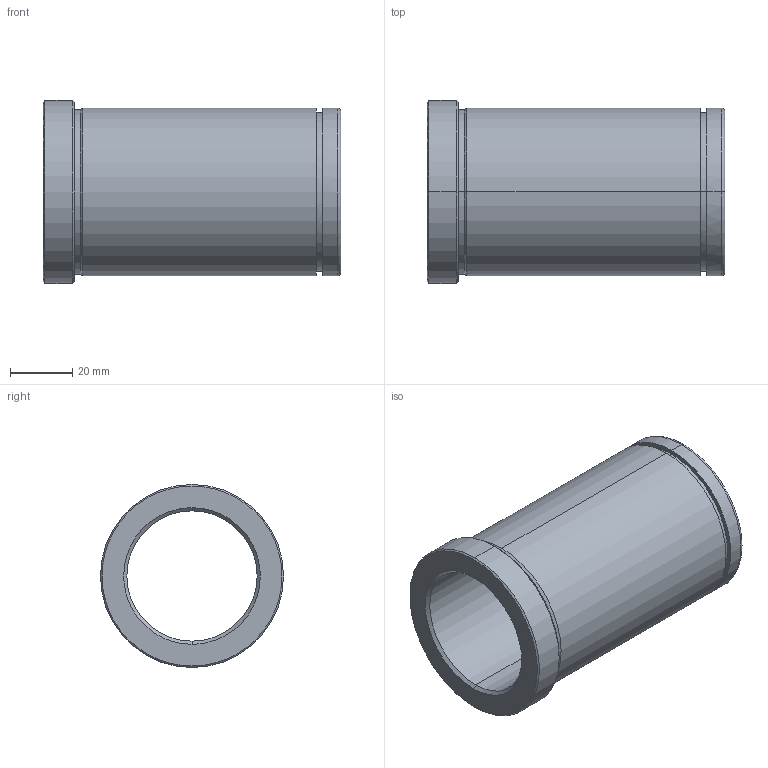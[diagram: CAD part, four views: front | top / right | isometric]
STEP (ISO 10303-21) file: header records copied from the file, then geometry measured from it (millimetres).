
FILE_DESCRIPTION(('CATIA V5 STEP Exchange'),'2;1');
FILE_NAME('C:\Users\Utente\Desktop\IO LAVORO\3D X SITO CF\X SITO\PLASTICA\553\553-42X96.stp','2021-06-08T17:50:08+00:00',('none'),('none'),'CATIA Version 5 Release 20 GA (IN-10)','CATIA V5 STEP AP203','none');
FILE_SCHEMA(('CONFIG_CONTROL_DESIGN'));
Length unit declared in the file: millimetre
Products named in the file (1): 553-42X96
Bounding box: 96 x 59 x 59 mm (x, y, z)
Volume: 90212.8 mm3; surface area: 31968.5 mm2
Topology: 1 solids, 1 shells, 29 faces, 92 edges, 68 vertices
Faces by surface type: cylinder 12, cone 8, plane 5, torus 4
Entity records: 1222 total; most frequent: CARTESIAN_POINT 368, ORIENTED_EDGE 184, DIRECTION 136, EDGE_CURVE 92, AXIS2_PLACEMENT_3D 88, VERTEX_POINT 68, CIRCLE 58, EDGE_LOOP 34
